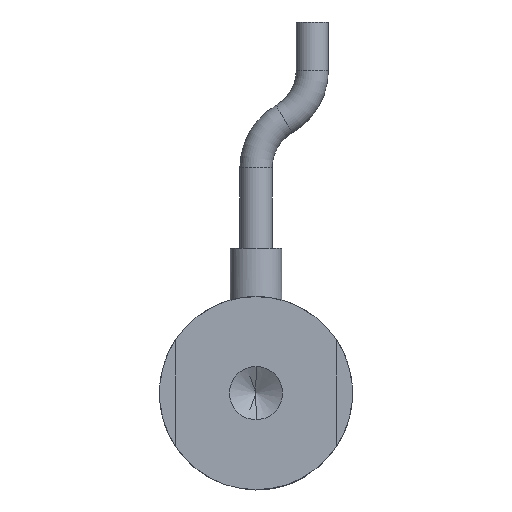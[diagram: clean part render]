
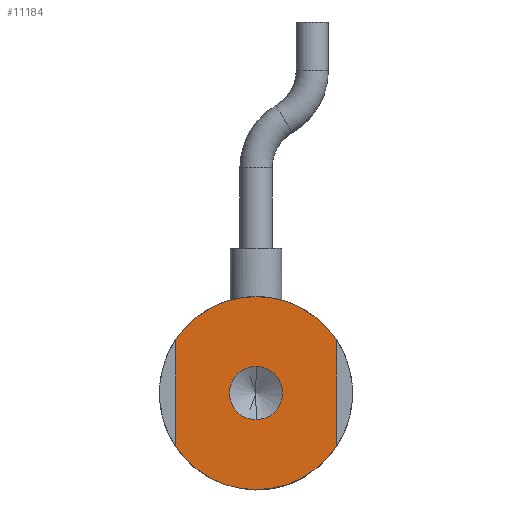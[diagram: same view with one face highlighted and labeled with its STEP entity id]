
A CAD part, front view. The second image highlights one B-rep face of the part: STEP entity #11184.
In plain terms, the highlighted planar face has unit normal (0, -1, 0).
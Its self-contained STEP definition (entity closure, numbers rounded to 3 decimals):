
#96 = AXIS2_PLACEMENT_3D ( 'NONE', #21882, #1822, #1770 ) ;
#705 = AXIS2_PLACEMENT_3D ( 'NONE', #39644, #19591, #42948 ) ;
#1032 = VERTEX_POINT ( 'NONE', #23618 ) ;
#1770 = DIRECTION ( 'NONE',  ( 0., 0., 1. ) ) ;
#1822 = DIRECTION ( 'NONE',  ( 0., 1., 0. ) ) ;
#1868 = PLANE ( 'NONE',  #96 ) ;
#2002 = VERTEX_POINT ( 'NONE', #25925 ) ;
#2227 = CIRCLE ( 'NONE', #19664, 6. ) ;
#3491 = VECTOR ( 'NONE', #14578, 1000. ) ;
#3567 = CIRCLE ( 'NONE', #27232, 6. ) ;
#3780 = LINE ( 'NONE', #18013, #3491 ) ;
#4077 = EDGE_CURVE ( 'NONE', #42380, #38659, #8019, .T. ) ;
#4163 = EDGE_CURVE ( 'NONE', #2002, #1032, #7372, .T. ) ;
#4290 = DIRECTION ( 'NONE',  ( 0., 1., 0. ) ) ;
#5370 = LINE ( 'NONE', #13322, #21657 ) ;
#5753 = EDGE_CURVE ( 'NONE', #38659, #18383, #2227, .T. ) ;
#6742 = ORIENTED_EDGE ( 'NONE', *, *, #32391, .F. ) ;
#7372 = CIRCLE ( 'NONE', #25356, 1.65 ) ;
#8019 = CIRCLE ( 'NONE', #25668, 6. ) ;
#11184 = ADVANCED_FACE ( 'NONE', ( #41736, #32869 ), #1868, .F. ) ;
#12206 = ORIENTED_EDGE ( 'NONE', *, *, #4163, .F. ) ;
#12386 = CIRCLE ( 'NONE', #705, 1.65 ) ;
#12665 = CARTESIAN_POINT ( 'NONE',  ( 5., 0., 3.317 ) ) ;
#13022 = EDGE_CURVE ( 'NONE', #41131, #39719, #3567, .T. ) ;
#13322 = CARTESIAN_POINT ( 'NONE',  ( 5., 0., 0. ) ) ;
#13619 = DIRECTION ( 'NONE',  ( 0., 0., -1. ) ) ;
#14547 = ORIENTED_EDGE ( 'NONE', *, *, #5753, .F. ) ;
#14578 = DIRECTION ( 'NONE',  ( 0., 0., 1. ) ) ;
#15068 = ORIENTED_EDGE ( 'NONE', *, *, #17004, .F. ) ;
#17004 = EDGE_CURVE ( 'NONE', #39719, #42380, #5370, .T. ) ;
#18013 = CARTESIAN_POINT ( 'NONE',  ( -5., 0., 0. ) ) ;
#18162 = DIRECTION ( 'NONE',  ( 0., 0., 1. ) ) ;
#18251 = DIRECTION ( 'NONE',  ( 0., 1., 0. ) ) ;
#18315 = CARTESIAN_POINT ( 'NONE',  ( 0., 0., 0. ) ) ;
#18383 = VERTEX_POINT ( 'NONE', #43111 ) ;
#19591 = DIRECTION ( 'NONE',  ( 0., -1., 0. ) ) ;
#19664 = AXIS2_PLACEMENT_3D ( 'NONE', #18315, #18251, #18162 ) ;
#19710 = DIRECTION ( 'NONE',  ( 0., -1., 0. ) ) ;
#19840 = DIRECTION ( 'NONE',  ( 0., 0., -1. ) ) ;
#19944 = CIRCLE ( 'NONE', #37419, 6. ) ;
#20992 = CARTESIAN_POINT ( 'NONE',  ( 0., 0., 0. ) ) ;
#21657 = VECTOR ( 'NONE', #13619, 1000. ) ;
#21882 = CARTESIAN_POINT ( 'NONE',  ( 0., 0., 0. ) ) ;
#23504 = ORIENTED_EDGE ( 'NONE', *, *, #4077, .F. ) ;
#23618 = CARTESIAN_POINT ( 'NONE',  ( 0., 0., 1.65 ) ) ;
#24151 = CARTESIAN_POINT ( 'NONE',  ( 0., 0., 6. ) ) ;
#24354 = CARTESIAN_POINT ( 'NONE',  ( 0., 0., 0. ) ) ;
#25356 = AXIS2_PLACEMENT_3D ( 'NONE', #20992, #19710, #19840 ) ;
#25668 = AXIS2_PLACEMENT_3D ( 'NONE', #25857, #25912, #25963 ) ;
#25857 = CARTESIAN_POINT ( 'NONE',  ( 0., 0., 0. ) ) ;
#25912 = DIRECTION ( 'NONE',  ( 0., 1., 0. ) ) ;
#25925 = CARTESIAN_POINT ( 'NONE',  ( 0., 0., -1.65 ) ) ;
#25963 = DIRECTION ( 'NONE',  ( 0., 0., 1. ) ) ;
#27232 = AXIS2_PLACEMENT_3D ( 'NONE', #38274, #38118, #37827 ) ;
#27679 = DIRECTION ( 'NONE',  ( 0., 0., 1. ) ) ;
#28232 = EDGE_CURVE ( 'NONE', #42957, #41131, #19944, .T. ) ;
#29348 = ORIENTED_EDGE ( 'NONE', *, *, #34819, .F. ) ;
#30142 = ORIENTED_EDGE ( 'NONE', *, *, #28232, .F. ) ;
#32391 = EDGE_CURVE ( 'NONE', #1032, #2002, #12386, .T. ) ;
#32869 = FACE_OUTER_BOUND ( 'NONE', #37291, .T. ) ;
#34084 = CARTESIAN_POINT ( 'NONE',  ( -5., 0., 3.317 ) ) ;
#34819 = EDGE_CURVE ( 'NONE', #18383, #42957, #3780, .T. ) ;
#36417 = ORIENTED_EDGE ( 'NONE', *, *, #13022, .F. ) ;
#36799 = EDGE_LOOP ( 'NONE', ( #12206, #6742 ) ) ;
#37291 = EDGE_LOOP ( 'NONE', ( #29348, #14547, #23504, #15068, #36417, #30142 ) ) ;
#37419 = AXIS2_PLACEMENT_3D ( 'NONE', #24354, #4290, #27679 ) ;
#37827 = DIRECTION ( 'NONE',  ( 0., 0., 1. ) ) ;
#38118 = DIRECTION ( 'NONE',  ( 0., 1., 0. ) ) ;
#38274 = CARTESIAN_POINT ( 'NONE',  ( 0., 0., 0. ) ) ;
#38659 = VERTEX_POINT ( 'NONE', #39302 ) ;
#39302 = CARTESIAN_POINT ( 'NONE',  ( 0., 0., -6. ) ) ;
#39644 = CARTESIAN_POINT ( 'NONE',  ( 0., 0., 0. ) ) ;
#39719 = VERTEX_POINT ( 'NONE', #12665 ) ;
#40381 = CARTESIAN_POINT ( 'NONE',  ( 5., 0., -3.317 ) ) ;
#41131 = VERTEX_POINT ( 'NONE', #24151 ) ;
#41736 = FACE_BOUND ( 'NONE', #36799, .T. ) ;
#42380 = VERTEX_POINT ( 'NONE', #40381 ) ;
#42948 = DIRECTION ( 'NONE',  ( 0., 0., -1. ) ) ;
#42957 = VERTEX_POINT ( 'NONE', #34084 ) ;
#43111 = CARTESIAN_POINT ( 'NONE',  ( -5., 0., -3.317 ) ) ;
